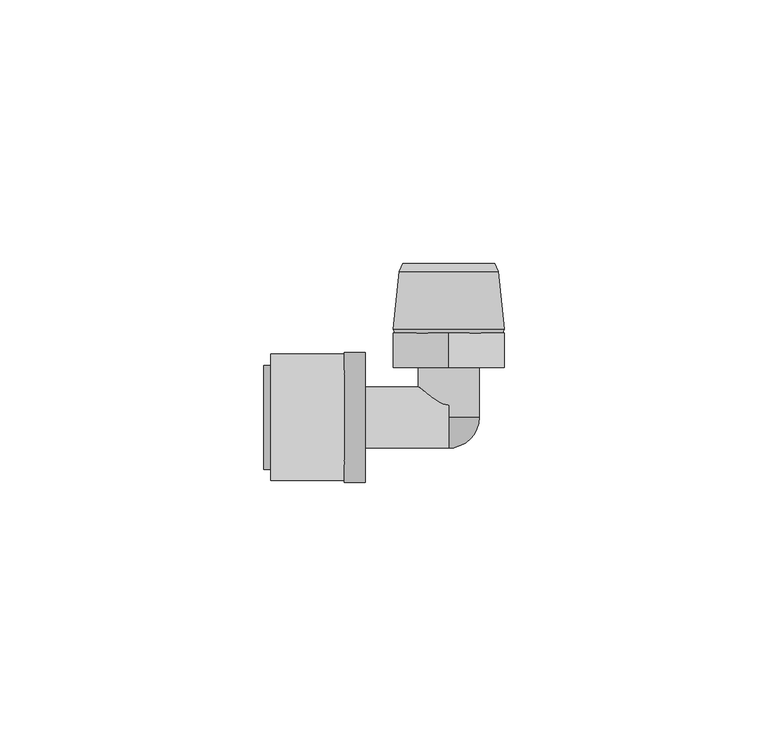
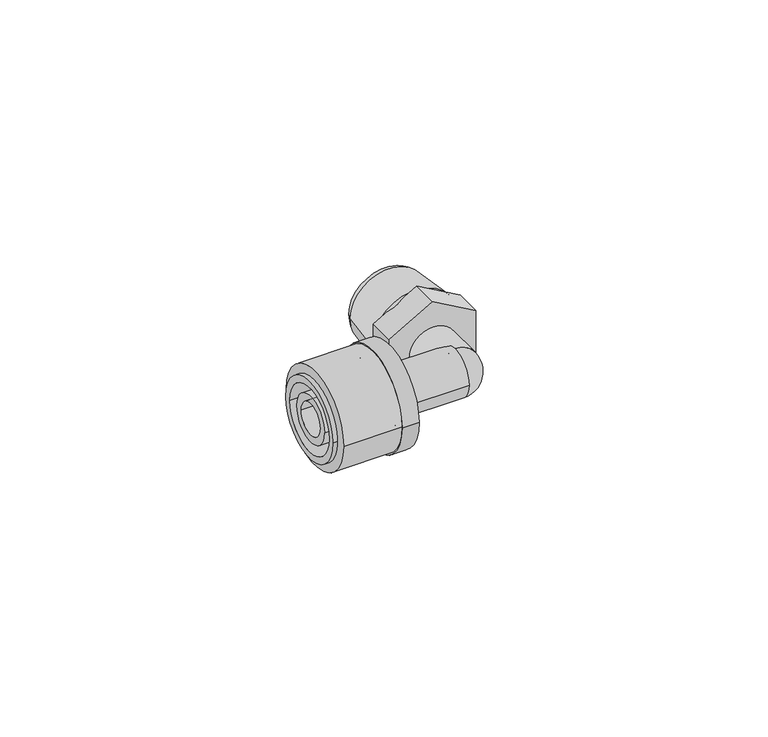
"""IFC4 building model written with IfcOpenShell, lengths in millimetres: pipe fitting geometry, FASTLOC_Elbow with male thread LX : FSL A internal FR."""

from ifc_helpers import new_model, si_unit, point, frame, origin, origin_2d, place, context, project, spatial, polyline, circle_curve, ellipse_curve, trimmed, segment, composite_curve, outline, extrude, source, transform, mapped, element, save
from ifc_brep_helpers import plane_surface, cylinder_surface, revolved_surface, advanced_brep


def pipe_fitting_2c1ed7f0(model_context):
    return source(origin(), model_context, "Body", "SolidModel", [
        extrude(outline(composite_curve([segment(trimmed(circle_curve(origin_2d(), 12.0), [point((12.0, 0.0))], [point((-12.0, 0.0))], False, "CARTESIAN"), True, "CONTINUOUS"), segment(trimmed(circle_curve(origin_2d(), 12.0), [point((-12.0, 0.0))], [point((12.0, 0.0))], False, "CARTESIAN"), True, "CONTINUOUS")], self_intersect=False), holes=[composite_curve([segment(trimmed(circle_curve(origin_2d(), 8.85), [point((8.85, 0.0))], [point((-8.85, 0.0))], True, "CARTESIAN"), True, "CONTINUOUS"), segment(trimmed(circle_curve(origin_2d(), 8.85), [point((-8.85, 0.0))], [point((8.85, 0.0))], True, "CARTESIAN"), True, "CONTINUOUS")], self_intersect=False)]), frame((-33.8, 0.0, 0.0), z_axis=(1.0, 0.0, 0.0), x_axis=(0.0, 1.0, 0.0)), (0.0, 0.0, 1.0), 14.0),
        advanced_brep(
        [(-19.8, -12.35, 0.0), (-19.8, 12.35, 0.0), (-15.8, 12.35, 0.0), (-15.8, -12.35, 0.0), (-35.1, -9.85, 0.0), (-35.1, 9.85, 0.0), (-19.8, 9.85, 0.0), (-19.8, -9.85, 0.0), (-15.8, -8.15, 0.0), (-15.8, 8.15, 0.0), (-35.1, 8.15, 0.0), (-35.1, -8.15, 0.0)],
        [
            (0, 1, circle_curve(frame((-19.8, 0.0, 0.0), z_axis=(1.0, 0.0, 0.0), x_axis=(0.0, 1.0, 0.0)), 12.35)),
            (1, 2),
            (2, 3, circle_curve(frame((-15.8, 0.0, 0.0), z_axis=(-1.0, 0.0, 0.0), x_axis=(0.0, 1.0, 0.0)), 12.35)),
            (3, 0),
            (4, 5, circle_curve(frame((-35.1, 0.0, 0.0), z_axis=(1.0, 0.0, 0.0), x_axis=(0.0, 1.0, 0.0)), 9.85)),
            (5, 6),
            (6, 7, circle_curve(frame((-19.8, 0.0, 0.0), z_axis=(-1.0, 0.0, 0.0), x_axis=(0.0, 1.0, 0.0)), 9.85)),
            (7, 4),
            (8, 9, circle_curve(frame((-15.8, 0.0, 0.0), z_axis=(1.0, 0.0, 0.0), x_axis=(0.0, 1.0, 0.0)), 8.15)),
            (9, 10),
            (10, 11, circle_curve(frame((-35.1, 0.0, 0.0), z_axis=(-1.0, 0.0, 0.0), x_axis=(0.0, 1.0, 0.0)), 8.15)),
            (11, 8),
            (1, 0, circle_curve(frame((-19.8, 0.0, 0.0), z_axis=(1.0, 0.0, 0.0), x_axis=(0.0, -1.0, 0.0)), 12.35)),
            (3, 2, circle_curve(frame((-15.8, 0.0, 0.0), z_axis=(-1.0, 0.0, 0.0), x_axis=(0.0, -1.0, 0.0)), 12.35)),
            (6, 7, circle_curve(frame((-19.8, 0.0, 0.0), z_axis=(1.0, 0.0, 0.0), x_axis=(0.0, -1.0, 0.0)), 9.85)),
            (5, 4, circle_curve(frame((-35.1, 0.0, 0.0), z_axis=(1.0, 0.0, 0.0), x_axis=(0.0, -1.0, 0.0)), 9.85)),
            (10, 11, circle_curve(frame((-35.1, 0.0, 0.0), z_axis=(1.0, 0.0, 0.0), x_axis=(0.0, -1.0, 0.0)), 8.15)),
            (9, 8, circle_curve(frame((-15.8, 0.0, 0.0), z_axis=(1.0, 0.0, 0.0), x_axis=(0.0, -1.0, 0.0)), 8.15)),
        ],
        [
            cylinder_surface(frame((-15.8, 0.0, 0.0), z_axis=(-1.0, 0.0, 0.0), x_axis=(0.0, 1.0, 0.0)), 12.35),
            cylinder_surface(frame((-15.8, 0.0, 0.0), z_axis=(-1.0, 0.0, 0.0), x_axis=(0.0, 1.0, 0.0)), 9.85),
            revolved_surface(polyline([(-35.1, 8.15, 0.0), (-15.8, 8.15, 0.0)]), (-15.8, 0.0, 0.0), (-1.0, 0.0, 0.0)),
            cylinder_surface(frame((-15.8, 0.0, 0.0), z_axis=(-1.0, 0.0, 0.0), x_axis=(0.0, -1.0, 0.0)), 12.35),
            plane_surface(frame((-19.8, 0.0, 0.0), z_axis=(-1.0, 0.0, 0.0), x_axis=(0.0, -1.0, 0.0))),
            cylinder_surface(frame((-15.8, 0.0, 0.0), z_axis=(-1.0, 0.0, 0.0), x_axis=(0.0, -1.0, 0.0)), 9.85),
            plane_surface(frame((-35.1, 0.0, 0.0), z_axis=(-1.0, 0.0, 0.0), x_axis=(0.0, -1.0, 0.0))),
            revolved_surface(polyline([(-35.1, -8.15, 0.0), (-15.8, -8.15, 0.0)]), (-15.8, 0.0, 0.0), (-1.0, 0.0, 0.0)),
            plane_surface(frame((-15.8, 0.0, 0.0), z_axis=(1.0, 0.0, 0.0), x_axis=(0.0, -1.0, 0.0))),
        ],
        [
            (0, [[1, 2, 3, 4]]),
            (1, [[5, 6, 7, 8]]),
            (2, [[9, 10, 11, 12]]),
            (3, [[13, -4, 14, -2]]),
            (4, [[-13, -1], [15, -7]]),
            (5, [[16, -8, -15, -6]]),
            (6, [[-16, -5], [17, -11]]),
            (7, [[18, -12, -17, -10]]),
            (8, [[-14, -3], [-18, -9]]),
        ],
    ),
        advanced_brep(
        [(-19.8, 5.8, 0.0), (-19.8, -5.8, 0.0), (-34.8, -5.8, 0.0), (-34.8, 5.8, 0.0), (-17.1, 6.9, 0.0), (-17.1, -6.9, 0.0), (-19.8, -6.9, 0.0), (-19.8, 6.9, 0.0), (0.0, 5.8, 0.0), (0.0, -5.8, 0.0), (-17.1, -5.8, 0.0), (-17.1, 5.8, 0.0), (-34.8, 3.95, 0.0), (-34.8, -3.95, 0.0), (0.0, -3.95, 0.0), (0.0, 3.95, 0.0)],
        [
            (0, 1, circle_curve(frame((-19.8, 0.0, 0.0), z_axis=(-1.0, 0.0, 0.0), x_axis=(0.0, -1.0, 0.0)), 5.8)),
            (1, 2),
            (2, 3, circle_curve(frame((-34.8, 0.0, 0.0), z_axis=(1.0, 0.0, 0.0), x_axis=(0.0, -1.0, 0.0)), 5.8)),
            (3, 0),
            (4, 5, circle_curve(frame((-17.1, 0.0, 0.0), z_axis=(-1.0, 0.0, 0.0), x_axis=(0.0, -1.0, 0.0)), 6.9)),
            (5, 6),
            (6, 7, circle_curve(frame((-19.8, 0.0, 0.0), z_axis=(1.0, 0.0, 0.0), x_axis=(0.0, -1.0, 0.0)), 6.9)),
            (7, 4),
            (8, 9, circle_curve(frame((0.0, 0.0, 0.0), z_axis=(-1.0, 0.0, 0.0), x_axis=(0.0, -1.0, 0.0)), 5.8)),
            (9, 10),
            (10, 11, circle_curve(frame((-17.1, 0.0, 0.0), z_axis=(1.0, 0.0, 0.0), x_axis=(0.0, -1.0, 0.0)), 5.8)),
            (11, 8),
            (12, 13, circle_curve(frame((-34.8, 0.0, 0.0), z_axis=(-1.0, 0.0, 0.0), x_axis=(0.0, -1.0, 0.0)), 3.95)),
            (13, 14),
            (14, 15, circle_curve(frame((0.0, 0.0, 0.0), z_axis=(1.0, 0.0, 0.0), x_axis=(0.0, -1.0, 0.0)), 3.95)),
            (15, 12),
            (2, 3, circle_curve(frame((-34.8, 0.0, 0.0), z_axis=(-1.0, 0.0, 0.0), x_axis=(0.0, 1.0, 0.0)), 5.8)),
            (12, 13, circle_curve(frame((-34.8, 0.0, 0.0), z_axis=(1.0, 0.0, 0.0), x_axis=(0.0, 1.0, 0.0)), 3.95)),
            (1, 0, circle_curve(frame((-19.8, 0.0, 0.0), z_axis=(-1.0, 0.0, 0.0), x_axis=(0.0, 1.0, 0.0)), 5.8)),
            (6, 7, circle_curve(frame((-19.8, 0.0, 0.0), z_axis=(-1.0, 0.0, 0.0), x_axis=(0.0, 1.0, 0.0)), 6.9)),
            (5, 4, circle_curve(frame((-17.1, 0.0, 0.0), z_axis=(-1.0, 0.0, 0.0), x_axis=(0.0, 1.0, 0.0)), 6.9)),
            (10, 11, circle_curve(frame((-17.1, 0.0, 0.0), z_axis=(-1.0, 0.0, 0.0), x_axis=(0.0, 1.0, 0.0)), 5.8)),
            (9, 8, circle_curve(frame((0.0, 0.0, 0.0), z_axis=(-1.0, 0.0, 0.0), x_axis=(0.0, 1.0, 0.0)), 5.8)),
            (14, 15, circle_curve(frame((0.0, 0.0, 0.0), z_axis=(-1.0, 0.0, 0.0), x_axis=(0.0, 1.0, 0.0)), 3.95)),
        ],
        [
            cylinder_surface(frame((0.0, 0.0, 0.0), z_axis=(1.0, 0.0, 0.0), x_axis=(0.0, -1.0, 0.0)), 5.8),
            cylinder_surface(frame((0.0, 0.0, 0.0), z_axis=(1.0, 0.0, 0.0), x_axis=(0.0, -1.0, 0.0)), 6.9),
            revolved_surface(polyline([(0.0, -3.95, 0.0), (-34.8, -3.95, 0.0)]), (0.0, 0.0, 0.0), (1.0, 0.0, 0.0)),
            plane_surface(frame((-34.8, 0.0, 0.0), z_axis=(-1.0, 0.0, 0.0), x_axis=(0.0, 1.0, 0.0))),
            cylinder_surface(frame((0.0, 0.0, 0.0), z_axis=(1.0, 0.0, 0.0), x_axis=(0.0, 1.0, 0.0)), 5.8),
            plane_surface(frame((-19.8, 0.0, 0.0), z_axis=(-1.0, 0.0, 0.0), x_axis=(0.0, 1.0, 0.0))),
            cylinder_surface(frame((0.0, 0.0, 0.0), z_axis=(1.0, 0.0, 0.0), x_axis=(0.0, 1.0, 0.0)), 6.9),
            plane_surface(frame((-17.1, 0.0, 0.0), z_axis=(1.0, 0.0, 0.0), x_axis=(0.0, 1.0, 0.0))),
            plane_surface(frame((0.0, 0.0, 0.0), z_axis=(1.0, 0.0, 0.0), x_axis=(0.0, 1.0, 0.0))),
            revolved_surface(polyline([(0.0, 3.95, 0.0), (-34.8, 3.95, 0.0)]), (0.0, 0.0, 0.0), (1.0, 0.0, 0.0)),
        ],
        [
            (0, [[1, 2, 3, 4]]),
            (1, [[5, 6, 7, 8]]),
            (0, [[9, 10, 11, 12]]),
            (2, [[13, 14, 15, 16]]),
            (3, [[17, -3], [18, -13]]),
            (4, [[19, -4, -17, -2]]),
            (5, [[20, -7], [-19, -1]]),
            (6, [[21, -8, -20, -6]]),
            (7, [[-21, -5], [22, -11]]),
            (4, [[23, -12, -22, -10]]),
            (8, [[-23, -9], [24, -15]]),
            (9, [[-18, -16, -24, -14]]),
        ],
    ),
        advanced_brep(
        [(9.4, 27.7000007, 0.0), (-9.4, 27.7000007, 0.0), (-8.75, 29.2, 0.0), (8.75, 29.2, 0.0), (10.55, 16.7406902, 0.0), (-10.55, 16.7406902, 0.0), (10.2, 16.0, 0.0), (-10.2, 16.0, 0.0), (7.0, 17.1032803, 0.0), (-7.0, 17.1032803, 0.0), (-5.8967197, 16.0, 0.0), (5.8967197, 16.0, 0.0), (7.0, 29.2, 0.0), (-7.0, 29.2, 0.0)],
        [
            (0, 1, circle_curve(frame((0.0, 27.7000007, 0.0), z_axis=(0.0, 1.0, 0.0), x_axis=(-1.0, 0.0, 0.0)), 9.4)),
            (1, 2),
            (2, 3, circle_curve(frame((0.0, 29.2, 0.0), z_axis=(0.0, -1.0, 0.0), x_axis=(-1.0, 0.0, 0.0)), 8.75)),
            (3, 0),
            (4, 5, circle_curve(frame((0.0, 16.7406902, 0.0), z_axis=(0.0, 1.0, 0.0), x_axis=(-1.0, 0.0, 0.0)), 10.55)),
            (5, 1),
            (0, 4),
            (6, 7, circle_curve(frame((0.0, 16.0, 0.0), z_axis=(0.0, 1.0, 0.0), x_axis=(-1.0, 0.0, 0.0)), 10.2)),
            (7, 5),
            (4, 6),
            (8, 9, circle_curve(frame((0.0, 17.1032803, 0.0), z_axis=(0.0, 1.0, 0.0), x_axis=(-1.0, 0.0, 0.0)), 7.0)),
            (9, 10),
            (10, 11, circle_curve(frame((0.0, 16.0, 0.0), z_axis=(0.0, -1.0, 0.0), x_axis=(-1.0, 0.0, 0.0)), 5.8967197)),
            (11, 8),
            (12, 13, circle_curve(frame((0.0, 29.2, 0.0), z_axis=(0.0, 1.0, 0.0), x_axis=(-1.0, 0.0, 0.0)), 7.0)),
            (13, 9),
            (8, 12),
            (2, 3, circle_curve(frame((0.0, 29.2, 0.0), z_axis=(0.0, 1.0, 0.0), x_axis=(1.0, 0.0, 0.0)), 8.75)),
            (12, 13, circle_curve(frame((0.0, 29.2, 0.0), z_axis=(0.0, -1.0, 0.0), x_axis=(1.0, 0.0, 0.0)), 7.0)),
            (1, 0, circle_curve(frame((0.0, 27.7000007, 0.0), z_axis=(0.0, 1.0, 0.0), x_axis=(1.0, 0.0, 0.0)), 9.4)),
            (5, 4, circle_curve(frame((0.0, 16.7406902, 0.0), z_axis=(0.0, 1.0, 0.0), x_axis=(1.0, 0.0, 0.0)), 10.55)),
            (7, 6, circle_curve(frame((0.0, 16.0, 0.0), z_axis=(0.0, 1.0, 0.0), x_axis=(1.0, 0.0, 0.0)), 10.2)),
            (10, 11, circle_curve(frame((0.0, 16.0, 0.0), z_axis=(0.0, 1.0, 0.0), x_axis=(1.0, 0.0, 0.0)), 5.8967197)),
            (9, 8, circle_curve(frame((0.0, 17.1032803, 0.0), z_axis=(0.0, 1.0, 0.0), x_axis=(1.0, 0.0, 0.0)), 7.0)),
        ],
        [
            revolved_surface(polyline([(-8.75, 29.2, 0.0), (-9.4, 27.7000007, 0.0)]), (0.0, 9.5, 0.0), (0.0, -1.0, 0.0)),
            revolved_surface(polyline([(-9.4, 27.7000007, 0.0), (-10.55, 16.7406902, 0.0)]), (0.0, 9.5, 0.0), (0.0, -1.0, 0.0)),
            revolved_surface(polyline([(-10.55, 16.7406902, 0.0), (-10.2, 16.0, 0.0)]), (0.0, 9.5, 0.0), (0.0, -1.0, 0.0)),
            revolved_surface(polyline([(-5.8967197, 16.0, 0.0), (-7.0, 17.1032803, 0.0)]), (0.0, 9.5, 0.0), (0.0, -1.0, 0.0)),
            revolved_surface(polyline([(-7.0, 17.1032803, 0.0), (-7.0, 29.2, 0.0)]), (0.0, 9.5, 0.0), (0.0, -1.0, 0.0)),
            plane_surface(frame((0.0, 29.2, 0.0), z_axis=(0.0, 1.0, 0.0), x_axis=(1.0, 0.0, 0.0))),
            revolved_surface(polyline([(8.75, 29.2, 0.0), (9.4, 27.7000007, 0.0)]), (0.0, 9.5, 0.0), (0.0, -1.0, 0.0)),
            revolved_surface(polyline([(9.4, 27.7000007, 0.0), (10.55, 16.7406902, 0.0)]), (0.0, 9.5, 0.0), (0.0, -1.0, 0.0)),
            revolved_surface(polyline([(10.55, 16.7406902, 0.0), (10.2, 16.0, 0.0)]), (0.0, 9.5, 0.0), (0.0, -1.0, 0.0)),
            plane_surface(frame((0.0, 16.0, 0.0), z_axis=(0.0, -1.0, 0.0), x_axis=(1.0, 0.0, 0.0))),
            revolved_surface(polyline([(5.8967197, 16.0, 0.0), (7.0, 17.1032803, 0.0)]), (0.0, 9.5, 0.0), (0.0, -1.0, 0.0)),
            revolved_surface(polyline([(7.0, 17.1032803, 0.0), (7.0, 29.2, 0.0)]), (0.0, 9.5, 0.0), (0.0, -1.0, 0.0)),
        ],
        [
            (0, [[1, 2, 3, 4]]),
            (1, [[5, 6, -1, 7]]),
            (2, [[8, 9, -5, 10]]),
            (3, [[11, 12, 13, 14]]),
            (4, [[15, 16, -11, 17]]),
            (5, [[18, -3], [19, -15]]),
            (6, [[20, -4, -18, -2]]),
            (7, [[21, -7, -20, -6]]),
            (8, [[22, -10, -21, -9]]),
            (9, [[-22, -8], [23, -13]]),
            (10, [[24, -14, -23, -12]]),
            (11, [[-19, -17, -24, -16]]),
        ],
    ),
        advanced_brep(
        [(0.0, -5.8, 0.0), (0.0, 0.0, 5.8), (0.0, 0.0, 3.75), (0.0, -3.75, 0.0), (0.0, 0.0, -3.75), (0.0, 0.0, -5.8)],
        [
            (0, 1, circle_curve(frame((0.0, 0.0, 0.0), z_axis=(-1.0, 0.0, 0.0), x_axis=(0.0, 0.0, 1.0)), 5.8)),
            (1, 2),
            (2, 3, circle_curve(frame((0.0, 0.0, 0.0), z_axis=(1.0, 0.0, 0.0), x_axis=(0.0, 0.0, 1.0)), 3.75)),
            (3, 0),
            (3, 4, circle_curve(frame((0.0, 0.0, 0.0), z_axis=(1.0, 0.0, 0.0), x_axis=(0.0, 0.0, -1.0)), 3.75)),
            (4, 5),
            (5, 0, circle_curve(frame((0.0, 0.0, 0.0), z_axis=(-1.0, 0.0, 0.0), x_axis=(0.0, 0.0, -1.0)), 5.8)),
            (5, 1, circle_curve(frame((0.0, 0.0, 0.0), z_axis=(0.0, -1.0, 0.0), x_axis=(0.0, 0.0, 1.0)), 5.8)),
            (4, 2, circle_curve(frame((0.0, 0.0, 0.0), z_axis=(0.0, -1.0, 0.0), x_axis=(0.0, 0.0, 1.0)), 3.75)),
        ],
        [
            plane_surface(frame((0.0, 0.0, 0.0), z_axis=(-1.0, 0.0, 0.0), x_axis=(0.0, 0.0, 1.0))),
            plane_surface(frame((0.0, 0.0, 0.0), z_axis=(-1.0, 0.0, 0.0), x_axis=(0.0, 0.0, -1.0))),
            revolved_surface(trimmed(ellipse_curve(frame((0.0, 0.0, 0.0), z_axis=(-1.0, 0.0, 0.0), x_axis=(0.0, 0.0, 1.0)), 5.8, 5.8), [point((0.0, -5.8, 0.0))], [point((0.0, 0.0, 5.8))], True, "CARTESIAN"), (0.0, 0.0, 0.0), (0.0, 1.0, 0.0)),
            plane_surface(frame((0.0, 0.0, 0.0), z_axis=(0.0, 1.0, 0.0), x_axis=(0.0, 0.0, 1.0))),
            revolved_surface(trimmed(ellipse_curve(frame((0.0, 0.0, 0.0), z_axis=(1.0, 0.0, 0.0), x_axis=(0.0, 0.0, 1.0)), 3.75, 3.75), [point((0.0, 0.0, 3.75))], [point((0.0, -3.75, 0.0))], True, "CARTESIAN"), (0.0, 0.0, 0.0), (0.0, 1.0, 0.0)),
        ],
        [
            (0, [[1, 2, 3, 4]]),
            (1, [[5, 6, 7, -4]]),
            (2, [[8, -1, -7]]),
            (3, [[9, -2, -8, -6]]),
            (4, [[-3, -9, -5]]),
        ],
    ),
        extrude(outline(polyline([(-6.0621778, 10.5), (6.0621778, 10.5), (12.1243557, 0.0), (6.0621778, -10.5), (-6.0621778, -10.5), (-12.1243557, 0.0), (-6.0621778, 10.5)])), frame((0.0, 9.5, 0.0), z_axis=(0.0, 1.0, 0.0), x_axis=(0.0, 0.0, 1.0)), (0.0, 0.0, 1.0), 6.5),
        extrude(outline(composite_curve([segment(trimmed(circle_curve(origin_2d(), 5.8), [point((0.0, -5.8))], [point((0.0, 5.8))], False, "CARTESIAN"), True, "CONTINUOUS"), segment(trimmed(circle_curve(origin_2d(), 5.8), [point((0.0, 5.8))], [point((0.0, -5.8))], False, "CARTESIAN"), True, "CONTINUOUS")], self_intersect=False), holes=[composite_curve([segment(trimmed(circle_curve(origin_2d(), 3.95), [point((0.0, -3.95))], [point((0.0, 3.95))], True, "CARTESIAN"), True, "CONTINUOUS"), segment(trimmed(circle_curve(origin_2d(), 3.95), [point((0.0, 3.95))], [point((0.0, -3.95))], True, "CARTESIAN"), True, "CONTINUOUS")], self_intersect=False)]), frame((0.0, 0.0, 0.0), z_axis=(0.0, 1.0, 0.0), x_axis=(0.0, 0.0, 1.0)), (0.0, 0.0, 1.0), 9.5),
    ])


if __name__ == "__main__":
    model = new_model("IFC4")
    model_context = context("Model", 3, world=origin())
    ifc_project = project(units=[si_unit("LENGTHUNIT", "METRE", prefix="MILLI")], contexts=[model_context])
    site = spatial("IfcSite", under=ifc_project)
    building = spatial("IfcBuilding", under=site)
    placement = place(None, origin())
    pipe_fitting_shape = pipe_fitting_2c1ed7f0(model_context)
    element("IfcPipeFitting", 1, ObjectType="FASTLOC_Elbow with male thread LX : FSL A internal FR", at=placement, inside=building, context=model_context, shape_type="MappedRepresentation", body=[
        mapped(pipe_fitting_shape, transform((0.0, 0.0, 0.0), x_axis=(1.0, 0.0, 0.0), y_axis=(0.0, 1.0, 0.0), z_axis=(0.0, 0.0, 1.0))),
    ])
    save(model, "model.ifc")
